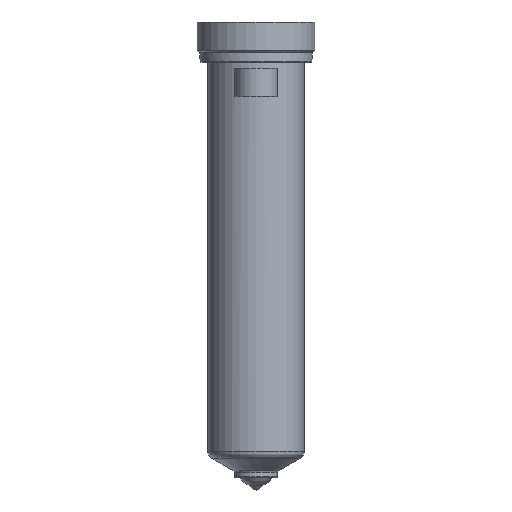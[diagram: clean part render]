
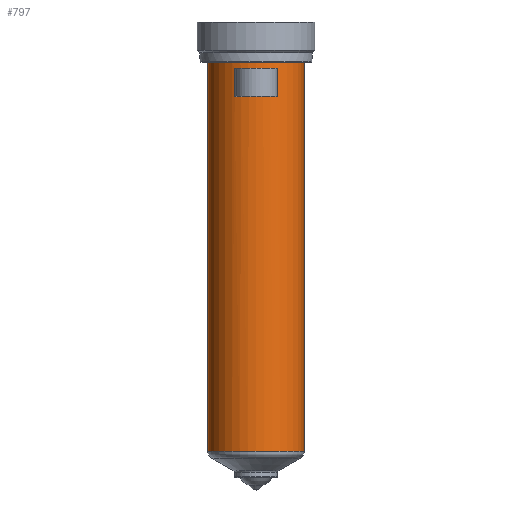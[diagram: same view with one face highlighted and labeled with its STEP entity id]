
A CAD part, top view. The second image highlights one B-rep face of the part: STEP entity #797.
In plain terms, the highlighted cylindrical face has radius 18 mm (diameter 36 mm), a partial arc.
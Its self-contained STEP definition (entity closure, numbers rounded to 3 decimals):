
#187=DIRECTION('',(0.,-1.,0.));
#188=VECTOR('',#187,145.506);
#189=CARTESIAN_POINT('',(18.,0.,0.));
#190=LINE('',#189,#188);
#191=CARTESIAN_POINT('',(0.,-145.506,0.));
#192=DIRECTION('',(0.,1.,0.));
#193=DIRECTION('',(-1.,0.,0.));
#194=AXIS2_PLACEMENT_3D('',#191,#192,#193);
#196=DIRECTION('',(0.,1.,0.));
#197=VECTOR('',#196,145.506);
#198=CARTESIAN_POINT('',(-18.,-145.506,0.));
#199=LINE('',#198,#197);
#200=CARTESIAN_POINT('',(0.,0.,0.));
#201=DIRECTION('',(0.,1.,0.));
#202=DIRECTION('',(-1.,0.,0.));
#203=AXIS2_PLACEMENT_3D('',#200,#201,#202);
#367=DIRECTION('',(0.,-1.,0.));
#368=VECTOR('',#367,10.5);
#369=CARTESIAN_POINT('',(-8.,-2.5,16.125));
#370=LINE('',#369,#368);
#371=CARTESIAN_POINT('',(0.,-13.,0.));
#372=DIRECTION('',(0.,1.,0.));
#373=DIRECTION('',(-0.444,0.,0.896));
#374=AXIS2_PLACEMENT_3D('',#371,#372,#373);
#397=CARTESIAN_POINT('',(0.,-2.5,0.));
#398=DIRECTION('',(0.,-1.,0.));
#399=DIRECTION('',(0.444,0.,0.896));
#400=AXIS2_PLACEMENT_3D('',#397,#398,#399);
#415=DIRECTION('',(0.,-1.,0.));
#416=VECTOR('',#415,10.5);
#417=CARTESIAN_POINT('',(8.,-2.5,16.125));
#418=LINE('',#417,#416);
#476=CARTESIAN_POINT('',(-18.,0.,0.));
#477=CARTESIAN_POINT('',(18.,0.,0.));
#478=VERTEX_POINT('',#476);
#479=VERTEX_POINT('',#477);
#488=CARTESIAN_POINT('',(-8.,-2.5,16.125));
#489=VERTEX_POINT('',#488);
#490=CARTESIAN_POINT('',(8.,-2.5,16.125));
#491=VERTEX_POINT('',#490);
#524=CARTESIAN_POINT('',(18.,-145.506,0.));
#525=VERTEX_POINT('',#524);
#534=CARTESIAN_POINT('',(-18.,-145.506,0.));
#535=VERTEX_POINT('',#534);
#556=CARTESIAN_POINT('',(-8.,-13.,16.125));
#557=CARTESIAN_POINT('',(8.,-13.,16.125));
#558=VERTEX_POINT('',#556);
#559=VERTEX_POINT('',#557);
#775=CARTESIAN_POINT('',(0.,16.4,0.));
#776=DIRECTION('',(0.,-1.,0.));
#777=DIRECTION('',(-1.,0.,0.));
#778=AXIS2_PLACEMENT_3D('',#775,#776,#777);
#779=CYLINDRICAL_SURFACE('',#778,18.);
#780=ORIENTED_EDGE('',*,*,#769,.T.);
#782=ORIENTED_EDGE('',*,*,#781,.F.);
#783=ORIENTED_EDGE('',*,*,#765,.T.);
#784=ORIENTED_EDGE('',*,*,#755,.T.);
#785=EDGE_LOOP('',(#780,#782,#783,#784));
#786=FACE_OUTER_BOUND('',#785,.F.);
#788=ORIENTED_EDGE('',*,*,#787,.T.);
#790=ORIENTED_EDGE('',*,*,#789,.T.);
#792=ORIENTED_EDGE('',*,*,#791,.F.);
#794=ORIENTED_EDGE('',*,*,#793,.T.);
#795=EDGE_LOOP('',(#788,#790,#792,#794));
#796=FACE_BOUND('',#795,.F.);
#797=ADVANCED_FACE('',(#786,#796),#779,.T.);
#195=CIRCLE('',#194,18.);
#204=CIRCLE('',#203,18.);
#375=CIRCLE('',#374,18.);
#401=CIRCLE('',#400,18.);
#755=EDGE_CURVE('',#478,#479,#204,.T.);
#765=EDGE_CURVE('',#535,#478,#199,.T.);
#769=EDGE_CURVE('',#479,#525,#190,.T.);
#781=EDGE_CURVE('',#535,#525,#195,.T.);
#787=EDGE_CURVE('',#489,#558,#370,.T.);
#789=EDGE_CURVE('',#558,#559,#375,.T.);
#791=EDGE_CURVE('',#491,#559,#418,.T.);
#793=EDGE_CURVE('',#491,#489,#401,.T.);
